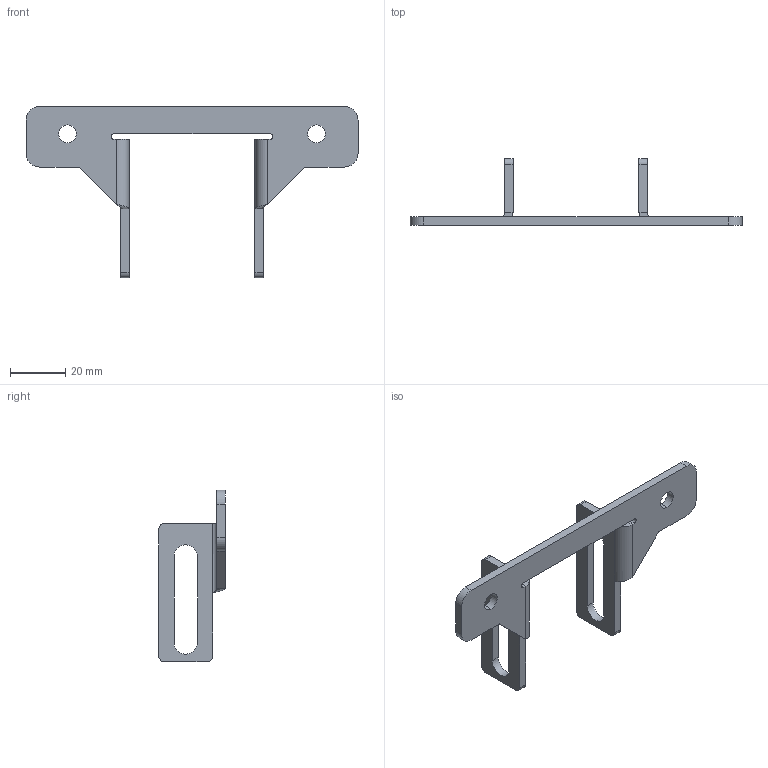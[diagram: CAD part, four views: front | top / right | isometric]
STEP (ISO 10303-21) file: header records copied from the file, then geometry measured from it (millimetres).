
FILE_DESCRIPTION (( 'STEP AP203' ), '1' );
FILE_NAME ('084.106.139.STEP', '2013-01-23T12:31:40', ( 'Alusic' ), ( 'Alusic' ), 'SwSTEP 2.0', 'SolidWorks 2011', '' );
FILE_SCHEMA (( 'CONFIG_CONTROL_DESIGN' ));
Length unit declared in the file: millimetre
Products named in the file (1): 084.106.139
Bounding box: 120 x 24 x 62 mm (x, y, z)
Volume: 10818.6 mm3; surface area: 9484.4 mm2
Topology: 1 solids, 1 shells, 56 faces, 146 edges, 92 vertices
Faces by surface type: plane 30, cylinder 24, bspline 2
Entity records: 1911 total; most frequent: CARTESIAN_POINT 421, DIRECTION 296, ORIENTED_EDGE 292, EDGE_CURVE 146, AXIS2_PLACEMENT_3D 99, VECTOR 98, LINE 98, VERTEX_POINT 92
